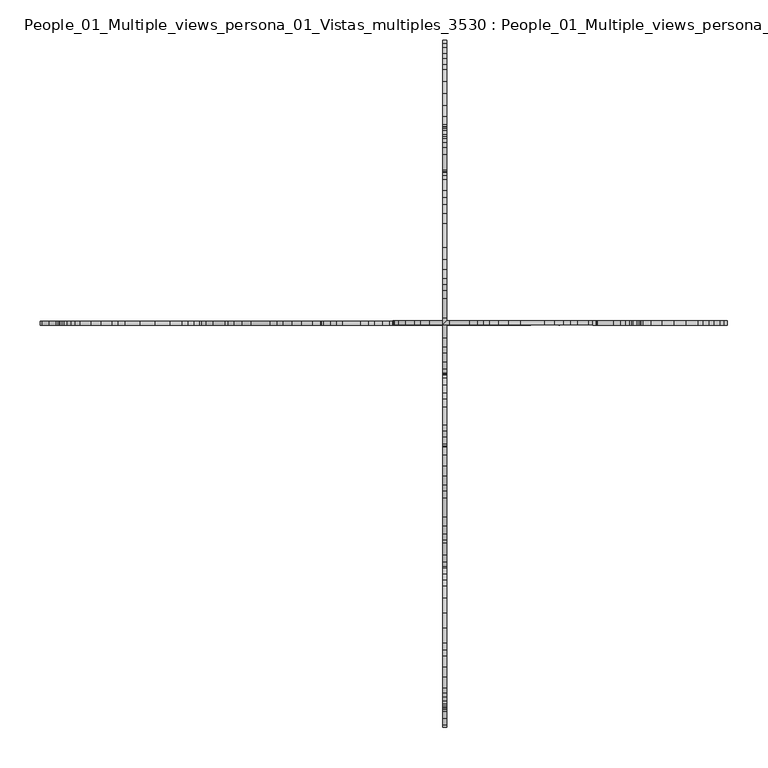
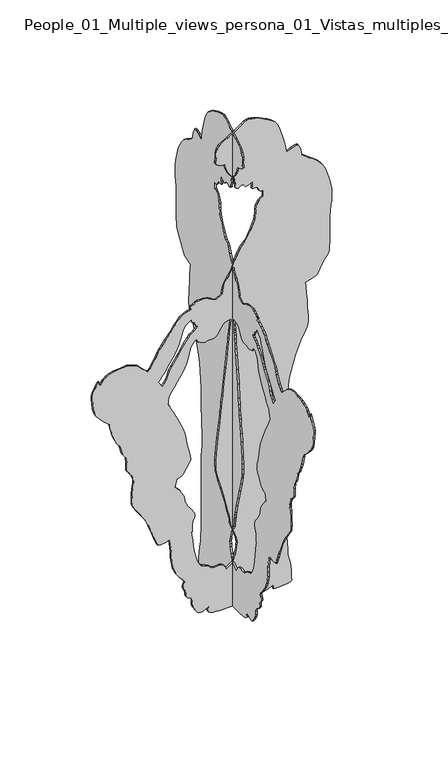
"""IFC4 building model written with IfcOpenShell, lengths in millimetres: proxy geometry, People_01_Multiple_views_persona_01_Vistas_multiples_3530 : People_01_Multiple_views_persona_01_Vistas_multiples_3530."""

from ifc_helpers import new_model, si_unit, frame, origin, place, context, project, spatial, polyline, outline, extrude, source, transform, mapped, element, save


def people_01_multiple_views_persona_01_vistas_multiples_3530_4a2755cf(model_context):
    return source(origin(), model_context, "Body", "SweptSolid", [
        extrude(outline(polyline([(1368.4281997, 51.9186851), (1357.3027672, 44.5017301), (1349.8858122, 38.3209342), (1342.4688572, 30.9039792), (1333.815743, 24.7231834), (1312.8010371, 13.5977509), (1293.0224904, 4.9446367), (1285.6055354, 2.4723183), (1279.4247396, 0.0), (1262.1185112, -4.9446367), (1250.9930787, -11.1254325), (1238.631487, -19.7785467), (1223.797577, -29.66782), (1205.2551895, -35.8486159), (1186.7128019, -39.5570934), (1182.2226355, -39.211696), (1169.4065736, -60.5717993), (1171.8788919, -67.9887543), (1178.0596877, -76.6418685), (1183.0043244, -86.5311418), (1186.7128019, -93.9480968), (1187.9489611, -103.8373702), (1187.9489611, -126.0882352), (1185.4766428, -133.5051902), (1179.2958469, -140.9221452), (1175.5873694, -149.5752594), (1174.3512102, -152.0475777), (1171.8788919, -153.2837369), (1168.1704144, -153.2837369), (1164.4619369, -147.1029411), (1160.7534594, -163.1730103), (1154.5726635, -176.7707611), (1147.1557085, -189.1323528), (1133.5579577, -200.2577853), (1123.6686843, -207.6747403), (1111.3070926, -216.3278545), (1080.4031134, -239.8148787), (1065.5692034, -250.9403112), (1051.9714525, -260.8295846), (1040.84602, -268.2465396), (1032.1929058, -271.9550171), (1004.9974041, -286.7889271), (992.6358124, -295.4420413), (985.1391052, -301.0645717), (985.4436136, -303.1961306), (990.1634941, -310.2759513), (996.34429, -317.6929063), (1003.761245, -325.1098614), (1018.595155, -339.9437714), (1027.2482692, -358.4861589), (1030.9567467, -377.0285464), (1029.7205875, -395.570934), (1028.4844283, -404.2240482), (1027.2482692, -411.6410032), (1026.01211, -425.238754), (1022.3036325, -437.6003457), (1016.1228367, -451.1980966), (1011.1782, -457.3788924), (1007.4697225, -462.3235291), (1000.0527675, -467.2681658), (995.1081308, -470.9766433), (993.8719716, -473.4489616), (996.34429, -475.9212799), (1000.0527675, -477.1574391), (1007.4697225, -477.1574391), (1006.2335633, -478.3935983), (1002.5250858, -480.8659166), (987.6911758, -489.5190308), (970.3849474, -498.172145), (960.4956741, -500.6444633), (950.6064007, -500.6444633), (930.827854, -499.4083041), (911.0493073, -496.9359858), (892.5069198, -491.9913491), (885.0899648, -489.5190308), (880.1453281, -485.8105533), (869.0198956, -475.9212799), (855.4221447, -463.5596883), (841.8243939, -449.9619374), (833.3620962, -438.9609504), (824.5181655, -437.6003457), (789.9057088, -428.9472315), (773.8356396, -422.7664357), (760.2378887, -416.5856398), (750.3486154, -411.6410032), (745.4039787, -407.9325257), (741.6955012, -404.2240482), (735.5147054, -401.7517298), (708.3192037, -394.3347748), (702.1384078, -390.6262973), (697.1937711, -386.9178198), (692.2491345, -383.2093423), (684.8321794, -380.737024), (667.5259511, -378.2647056), (639.0942902, -378.2647056), (632.9134944, -374.5562281), (626.7326985, -369.6115914), (620.5519027, -365.9031139), (618.0795843, -363.4307956), (620.171546, -361.3388339), (610.6626293, -358.4861589), (595.8287193, -354.7776814), (590.8840826, -353.5415222), (587.1756051, -353.5415222), (582.2309684, -354.7776814), (572.3416951, -356.0138406), (545.1461934, -358.4861589), (516.7145325, -359.7223181), (504.3529408, -358.4861589), (495.6998266, -356.0138406), (488.2828716, -352.3053631), (479.6297574, -346.1245672), (459.8512107, -332.5268164), (441.3088232, -320.1652247), (432.655709, -313.9844288), (426.4749132, -310.2759513), (417.821799, -306.5674738), (404.2240482, -300.386678), (368.3754323, -286.7889271), (351.0692039, -280.6081313), (336.2352939, -274.4273354), (325.1098614, -270.7188579), (321.4013839, -268.8646192), (321.4013839, -265.7742213), (320.1652247, -258.3572663), (320.1652247, -249.7041521), (321.4013839, -242.2871971), (323.8737022, -234.870242), (325.2803661, -227.8369226), (310.2759513, -223.7448095), (276.8996538, -220.036332), (259.5934254, -220.036332), (242.2871971, -218.8001729), (227.453287, -216.3278545), (213.8555362, -213.8555362), (190.368512, -202.7301037), (170.5899653, -189.1323528), (163.1730103, -181.7153978), (155.7560553, -176.7707611), (152.0475777, -173.0622836), (150.8114186, -171.8261244), (148.3391002, -173.0622836), (140.9221452, -176.7707611), (133.5051902, -178.0069203), (127.3243944, -178.0069203), (121.1435985, -174.2984428), (113.7266435, -170.5899653), (106.3096885, -169.3538061), (101.3650518, -169.3538061), (97.6565743, -169.3538061), (92.7119377, -166.8814878), (87.767301, -161.9368511), (84.0588235, -153.2837369), (81.5865051, -149.5752594), (77.8780276, -147.1029411), (66.7525951, -145.8667819), (54.3910034, -145.8667819), (43.2655709, -142.1583044), (23.4870242, -129.7967127), (17.3062284, -123.6159169), (16.0700692, -116.1989619), (17.3062284, -110.018166), (26.7459893, -87.9920572), (22.250865, -90.2396193), (13.5977509, -91.4757785), (9.8892733, -89.0034601), (4.9446367, -82.8226643), (1.2361592, -70.4610726), (1.2361592, -61.8079584), (0.0, -51.9186851), (0.0, 0.0), (3.7084775, 53.1548443), (8.6531142, 77.8780276), (13.5977509, 101.3650518), (21.0147059, 123.6159169), (29.66782, 142.1583044), (25.9593425, 140.9221452), (19.7785467, 140.9221452), (16.0700692, 142.1583044), (13.5977509, 142.1583044), (13.5977509, 150.8114186), (14.83391, 171.8261244), (17.3062284, 192.8408303), (19.7785467, 201.4939445), (23.4870242, 207.6747403), (39.5570934, 206.4385812), (58.0994809, 206.4385812), (79.1141868, 203.9662628), (98.8927335, 200.2577853), (111.2543252, 196.5493078), (127.3243944, 194.0769895), (147.1029411, 192.8408303), (169.3538061, 191.6046711), (194.0769895, 190.368512), (332.5268164, 190.368512), (385.6816606, 191.6046711), (410.404844, 191.6046711), (431.4195499, 190.368512), (451.1980966, 189.1323528), (466.0320066, 187.8961936), (493.2275083, 185.4238753), (521.6591692, 184.1877161), (579.7586501, 186.6600345), (640.3304494, 189.1323528), (702.1384078, 191.6046711), (731.8062279, 192.8408303), (761.4740479, 195.3131487), (788.6695496, 199.0216262), (814.6288922, 205.202422), (864.0752589, 220.036332), (912.2854665, 239.8148787), (922.1747398, 244.7595154), (930.827854, 249.7041521), (945.661764, 257.1211071), (958.0233557, 262.0657438), (974.0934249, 265.7742213), (996.34429, 265.7742213), (1012.4143591, 264.5380621), (1030.9567467, 263.3019029), (1054.4437709, 262.0657438), (1081.6392726, 259.5934254), (1113.779411, 257.1211071), (1123.7588209, 256.1553577), (1126.1410027, 263.3019029), (1129.8494802, 273.1911763), (1136.030276, 291.7335638), (1138.5025943, 295.4420413), (1143.447231, 299.1505188), (1157.0449819, 306.5674738), (1174.3512102, 315.220588), (1192.8935978, 328.8183389), (1202.7828711, 334.9991347), (1215.1444628, 339.9437714), (1229.9783728, 341.1799306), (1246.048442, 342.4160897), (1338.7603797, 342.4160897), (1363.483563, 343.6522489), (1384.4982689, 346.1245672), (1400.5683381, 348.5968856), (1414.166089, 349.8330447), (1443.833909, 349.8330447), (1461.1401374, 346.1245672), (1483.3910024, 341.1799306), (1505.6418674, 333.7629755), (1524.184255, 327.5821797), (1537.7820058, 320.1652247), (1548.9074383, 313.9844288), (1566.2136667, 299.1505188), (1577.3390992, 284.3166088), (1587.2283726, 269.4826988), (1597.1176459, 255.8849479), (1604.5346009, 245.9956746), (1607.0069193, 243.5233562), (1609.4792376, 242.2871971), (1611.951556, 242.2871971), (1616.8961926, 241.0510379), (1629.2577843, 238.5787196), (1642.8555352, 233.6340829), (1647.8001718, 231.1617645), (1650.2724902, 228.6894462), (1650.2724902, 223.7448095), (1649.036331, 217.5640137), (1646.5640127, 208.9108995), (1636.6747393, 189.1323528), (1637.9108985, 189.1323528), (1641.619376, 187.8961936), (1652.7448085, 186.6600345), (1670.0510369, 182.951557), (1691.0657427, 178.0069203), (1733.0951545, 164.4091694), (1751.637542, 155.7560553), (1763.9991337, 147.1029411), (1772.6522479, 135.9775086), (1781.3053621, 123.6159169), (1796.1392721, 93.9480968), (1801.0839088, 79.1141868), (1804.7923863, 66.7525951), (1806.0285454, 55.6271626), (1806.0285454, 48.2102076), (1802.3200679, 40.7932526), (1796.1392721, 30.9039792), (1778.8330437, 6.1807958), (1762.7629745, -18.5423875), (1756.5821787, -29.66782), (1752.8737012, -37.0847751), (1745.4567462, -48.2102076), (1733.0951545, -56.8633218), (1720.7335628, -61.8079584), (1709.6081303, -61.8079584), (1697.2465386, -60.5717993), (1688.5934244, -63.0441176), (1682.4126286, -64.2802768), (1676.2318327, -60.5717993), (1671.287196, -53.1548443), (1667.5787185, -44.5017301), (1666.3425594, -37.0847751), (1666.3425594, -30.9039792), (1649.036331, -27.1955017), (1635.4385802, -22.250865), (1624.3131476, -14.83391), (1616.8961926, -9.8892733), (1613.1877151, -4.9446367), (1610.7153968, -1.2361592), (1609.4792376, 1.2361592), (1605.7707601, 3.7084775), (1595.8814868, 4.9446367), (1582.2837359, 6.1807958), (1569.9221442, 7.416955), (1564.9775075, 8.6531142), (1562.5051892, 11.1254325), (1561.26903, 17.3062284), (1563.7413484, 22.250865), (1567.4498259, 27.1955017), (1568.685985, 30.9039792), (1567.4498259, 34.6124567), (1564.9775075, 38.3209342), (1557.5605525, 44.5017301), (1558.7967117, 48.2102076), (1561.26903, 54.3910034), (1564.9775075, 60.5717993), (1566.5227065, 66.7525951), (1552.6159159, 66.7525951), (1543.9628017, 65.5164359), (1541.4904833, 66.7525951), (1540.2543242, 67.9887543), (1540.2543242, 84.0588235), (1539.018165, 86.5311418), (1534.0735283, 87.767301), (1527.8927325, 90.2396193), (1522.9480958, 95.184256), (1521.7119366, 100.1288927), (1521.7119366, 106.3096885), (1500.6972308, 106.3096885), (1500.6972308, 105.0735293), (1498.2249124, 101.3650518), (1494.5164349, 96.4204152), (1488.3356391, 90.2396193), (1471.0294107, 81.5865051), (1459.9039782, 79.1141868), (1445.0700682, 79.1141868), (1435.1807948, 77.8780276), (1422.8192031, 75.4057093), (1395.6237014, 65.5164359), (1368.4281997, 51.9186851)]), holes=[polyline([(776.3079579, -199.0216262), (799.7949821, -211.3832178), (818.3373697, -221.2724912), (826.9904838, -224.9809687), (831.9351205, -228.6894462), (835.643598, -229.9256054), (837.188797, -231.4708043), (841.8243939, -229.9256054), (852.9498264, -228.6894462), (865.3114181, -226.2171279), (867.4746966, -226.2171279), (870.2560547, -223.7448095), (885.0899648, -213.8555362), (893.743079, -207.6747403), (902.3961931, -202.7301037), (919.7024215, -190.368512), (939.4809682, -178.0069203), (964.2041516, -165.6453286), (979.0380616, -160.7006919), (1011.1782, -153.2837369), (1022.3036325, -149.5752594), (1030.9567467, -144.6306227), (1037.1375425, -140.9221452), (1041.5877155, -134.9885812), (1043.3183384, -129.7967127), (1040.84602, -129.7967127), (1037.1375425, -127.3243944), (1032.1929058, -124.852076), (1030.9567467, -118.6712802), (1026.01211, -110.018166), (1024.7759508, -100.1288927), (1026.01211, -91.4757785), (1027.2482692, -86.5311418), (1027.2482692, -70.4610726), (1029.7205875, -61.8079584), (1032.1929058, -58.0994809), (1035.9013833, -55.6271626), (1056.9160892, -43.2655709), (1066.8053626, -35.8486159), (1071.7499992, -29.66782), (1076.6946359, -16.0700692), (1077.9307951, -11.1254325), (1077.9307951, -8.6531142), (1058.1522484, -11.1254325), (1044.5544975, -12.3615917), (1039.6098609, -13.5977509), (1032.1929058, -13.5977509), (1023.5397917, -14.83391), (1009.9420408, -16.0700692), (993.8719716, -17.3062284), (974.0934249, -19.7785467), (951.8425599, -22.250865), (902.3961931, -27.1955017), (850.477508, -33.3762976), (801.0311413, -38.3209342), (778.7802763, -40.7932526), (759.0017296, -42.0294117), (741.6955012, -44.5017301), (728.0977503, -45.7378892), (703.374567, -48.2102076), (676.1790653, -51.9186851), (647.7474044, -55.6271626), (593.356401, -60.5717993), (568.6332176, -63.0441176), (547.6185117, -63.0441176), (531.5484425, -61.8079584), (522.8953283, -60.5717993), (513.006055, -58.0994809), (487.0467125, -51.9186851), (456.1427332, -43.2655709), (422.7664357, -34.6124567), (390.6262973, -25.9593425), (360.9584773, -19.7785467), (349.8330447, -16.0700692), (338.7076122, -14.83391), (331.2906572, -12.3615917), (325.1098614, -12.3615917), (315.220588, -11.1254325), (304.0951555, -8.6531142), (278.135813, 1.2361592), (252.1764704, 9.8892733), (242.2871971, 12.3615917), (233.6340829, 13.5977509), (224.9809687, 12.3615917), (213.8555362, 11.1254325), (191.6046711, 6.1807958), (180.4792386, 2.4723183), (171.8261244, 0.0), (166.8814878, -1.2361592), (164.4091694, -2.4723183), (149.160997, -25.8764901), (155.7560553, -27.1955017), (163.1730103, -33.3762976), (169.3538061, -40.7932526), (170.5899653, -49.4463667), (168.1176469, -67.9887543), (169.3538061, -75.4057093), (173.0622836, -80.350346), (179.2430795, -86.5311418), (185.4238753, -98.8927335), (189.1323528, -108.7820068), (190.368512, -112.4904843), (190.368512, -114.3447231), (194.0769895, -116.1989619), (199.0216262, -119.9074394), (206.4385812, -123.6159169), (217.5640137, -128.5605535), (231.1617645, -132.269031), (249.7041521, -135.9775086), (273.1911763, -139.6859861), (296.6782005, -142.1583044), (316.4567472, -145.8667819), (327.0764782, -147.3838863), (327.9942328, -144.6306227), (357.2499997, -144.6306227), (367.1392731, -142.1583044), (381.9731831, -134.7413494), (391.8624565, -134.7413494), (401.7517298, -139.6859861), (414.1133215, -148.3391002), (430.1833907, -159.4645328), (447.4896191, -168.1176469), (454.9065741, -170.5899653), (469.7404841, -173.0622836), (478.3935983, -176.7707611), (496.9359858, -187.8961936), (510.5337367, -200.2577853), (515.4783733, -203.9662628), (516.7145325, -206.4385812), (544.7442521, -198.9306206), (545.1461934, -195.3131487), (551.3269892, -181.7153978), (556.2716259, -175.534602), (562.4524217, -171.8261244), (574.8140134, -165.6453286), (583.4671276, -159.4645328), (592.1202418, -154.5198961), (603.2456743, -149.5752594), (623.024221, -152.0475777), (644.0389269, -158.2283736), (666.2897919, -163.1730103), (691.0129753, -166.8814878), (698.4299303, -168.1176469), (707.0830445, -170.5899653), (728.0977503, -178.0069203), (776.3079579, -199.0216262)]), polyline([(1022.3036325, -187.8961936), (1012.4143591, -192.8408303), (1004.9974041, -197.785467), (975.3295841, -217.5640137), (960.4956741, -227.453287), (945.661764, -232.3979237), (932.0640132, -237.3425604), (920.9385807, -244.7595154), (913.2125859, -252.4855102), (931.5618235, -265.0402518), (937.0086499, -259.5934254), (945.661764, -253.4126296), (959.2595149, -242.2871971), (974.0934249, -234.870242), (987.6911758, -224.9809687), (1004.9974041, -212.619377), (1026.01211, -200.2577853), (1050.7352934, -190.368512), (1079.1669543, -180.4792386), (1092.7647051, -176.7707611), (1103.8901376, -171.8261244), (1111.3070926, -166.8814878), (1116.2517293, -160.7006919), (1119.9602068, -156.9922144), (1122.4325252, -153.2837369), (1124.2867639, -149.5752594), (1121.196366, -149.5752594), (1116.2517293, -147.1029411), (1112.5432518, -143.3944636), (1110.0709335, -138.4498269), (1103.8901376, -137.2136677), (1097.7093418, -133.5051902), (1095.2370234, -129.7967127), (1094.0008643, -127.3243944), (1091.5285459, -128.5605535), (1086.5839093, -133.5051902), (1079.1669543, -140.9221452), (1072.9861584, -149.5752594), (1069.2776809, -154.5198961), (1061.8607259, -160.7006919), (1043.3183384, -174.2984428), (1022.3036325, -187.8961936)])]), frame((0.0, -2.5, 0.0), z_axis=(0.0, 1.0, 0.0), x_axis=(0.0, 0.0, 1.0)), (0.0, 0.0, 1.0), 5.0),
        extrude(outline(polyline([(13.5977509, 1312.8010371), (24.7231834, 1333.815743), (30.9039792, 1342.4688572), (38.3209342, 1349.8858122), (44.5017301, 1357.3027672), (51.9186851, 1368.4281997), (65.5164359, 1395.6237014), (75.4057093, 1422.8192031), (77.8780276, 1435.1807948), (79.1141868, 1445.0700682), (79.1141868, 1459.9039782), (81.5865051, 1471.0294107), (90.2396193, 1488.3356391), (96.4204152, 1494.5164349), (101.3650518, 1498.2249124), (105.0735293, 1500.6972308), (106.3096885, 1500.6972308), (106.3096885, 1521.7119366), (100.1288927, 1521.7119366), (95.184256, 1522.9480958), (90.2396193, 1527.8927325), (87.767301, 1534.0735283), (86.5311418, 1539.018165), (84.0588235, 1540.2543242), (67.9887543, 1540.2543242), (66.7525951, 1541.4904833), (65.5164359, 1543.9628017), (66.7525951, 1552.6159159), (66.7525951, 1566.5227065), (60.5717993, 1564.9775075), (54.3910034, 1561.26903), (48.2102076, 1558.7967117), (44.5017301, 1557.5605525), (38.3209342, 1564.9775075), (34.6124567, 1567.4498259), (30.9039792, 1568.685985), (27.1955017, 1567.4498259), (22.250865, 1563.7413484), (17.3062284, 1561.26903), (11.1254325, 1562.5051892), (8.6531142, 1564.9775075), (7.416955, 1569.9221442), (6.1807958, 1582.2837359), (4.9446367, 1595.8814868), (3.7084775, 1605.7707601), (1.2361592, 1609.4792376), (-1.2361592, 1610.7153968), (-4.9446367, 1613.1877151), (-9.8892733, 1616.8961926), (-14.83391, 1624.3131476), (-22.250865, 1635.4385802), (-27.1955017, 1649.036331), (-30.9039792, 1666.3425594), (-37.0847751, 1666.3425594), (-44.5017301, 1667.5787185), (-53.1548443, 1671.287196), (-60.5717993, 1676.2318327), (-64.2802768, 1682.4126286), (-63.0441176, 1688.5934244), (-60.5717993, 1697.2465386), (-61.8079584, 1709.6081303), (-61.8079584, 1720.7335628), (-56.8633218, 1733.0951545), (-48.2102076, 1745.4567462), (-37.0847751, 1752.8737012), (-29.66782, 1756.5821787), (-18.5423875, 1762.7629745), (6.1807958, 1778.8330437), (30.9039792, 1796.1392721), (40.7932526, 1802.3200679), (48.2102076, 1806.0285454), (55.6271626, 1806.0285454), (66.7525951, 1804.7923863), (79.1141868, 1801.0839088), (93.9480968, 1796.1392721), (123.6159169, 1781.3053621), (135.9775086, 1772.6522479), (147.1029411, 1763.9991337), (155.7560553, 1751.637542), (164.4091694, 1733.0951545), (178.0069203, 1691.0657427), (182.951557, 1670.0510369), (186.6600345, 1652.7448085), (187.8961936, 1641.619376), (189.1323528, 1637.9108985), (189.1323528, 1636.6747393), (208.9108995, 1646.5640127), (217.5640137, 1649.036331), (223.7448095, 1650.2724902), (228.6894462, 1650.2724902), (231.1617645, 1647.8001718), (233.6340829, 1642.8555352), (238.5787196, 1629.2577843), (241.0510379, 1616.8961926), (242.2871971, 1611.951556), (242.2871971, 1609.4792376), (243.5233562, 1607.0069193), (245.9956746, 1604.5346009), (255.8849479, 1597.1176459), (269.4826988, 1587.2283726), (284.3166088, 1577.3390992), (299.1505188, 1566.2136667), (313.9844288, 1548.9074383), (320.1652247, 1537.7820058), (327.5821797, 1524.184255), (333.7629755, 1505.6418674), (341.1799306, 1483.3910024), (346.1245672, 1461.1401374), (349.8330447, 1443.833909), (349.8330447, 1414.166089), (348.5968856, 1400.5683381), (346.1245672, 1384.4982689), (343.6522489, 1363.483563), (342.4160897, 1338.7603797), (342.4160897, 1246.048442), (341.1799306, 1229.9783728), (339.9437714, 1215.1444628), (334.9991347, 1202.7828711), (328.8183389, 1192.8935978), (315.220588, 1174.3512102), (306.5674738, 1157.0449819), (299.1505188, 1143.447231), (295.4420413, 1138.5025943), (291.7335638, 1136.030276), (273.1911763, 1129.8494802), (263.3019029, 1126.1410027), (256.1553577, 1123.7588209), (257.1211071, 1113.779411), (259.5934254, 1081.6392726), (262.0657438, 1054.4437709), (263.3019029, 1030.9567467), (264.5380621, 1012.4143591), (265.7742213, 996.34429), (265.7742213, 974.0934249), (262.0657438, 958.0233557), (257.1211071, 945.661764), (249.7041521, 930.827854), (244.7595154, 922.1747398), (239.8148787, 912.2854665), (220.036332, 864.0752589), (205.202422, 814.6288922), (199.0216262, 788.6695496), (195.3131487, 761.4740479), (192.8408303, 731.8062279), (191.6046711, 702.1384078), (189.1323528, 640.3304494), (186.6600345, 579.7586501), (184.1877161, 521.6591692), (185.4238753, 493.2275083), (187.8961936, 466.0320066), (189.1323528, 451.1980966), (190.368512, 431.4195499), (191.6046711, 410.404844), (191.6046711, 385.6816606), (190.368512, 332.5268164), (190.368512, 194.0769895), (191.6046711, 169.3538061), (192.8408303, 147.1029411), (194.0769895, 127.3243944), (196.5493078, 111.2543252), (200.2577853, 98.8927335), (203.9662628, 79.1141868), (206.4385812, 58.0994809), (206.4385812, 39.5570934), (207.6747403, 23.4870242), (201.4939445, 19.7785467), (192.8408303, 17.3062284), (171.8261244, 14.83391), (150.8114186, 13.5977509), (142.1583044, 13.5977509), (142.1583044, 16.0700692), (140.9221452, 19.7785467), (140.9221452, 25.9593425), (142.1583044, 29.66782), (123.6159169, 21.0147059), (101.3650518, 13.5977509), (77.8780276, 8.6531142), (53.1548443, 3.7084775), (0.0, 0.0), (-51.9186851, 0.0), (-61.8079584, 1.2361592), (-70.4610726, 1.2361592), (-82.8226643, 4.9446367), (-89.0034601, 9.8892733), (-91.4757785, 13.5977509), (-90.2396193, 22.250865), (-87.9920572, 26.7459893), (-110.018166, 17.3062284), (-116.1989619, 16.0700692), (-123.6159169, 17.3062284), (-129.7967127, 23.4870242), (-142.1583044, 43.2655709), (-145.8667819, 54.3910034), (-145.8667819, 66.7525951), (-147.1029411, 77.8780276), (-149.5752594, 81.5865051), (-153.2837369, 84.0588235), (-161.9368511, 87.767301), (-166.8814878, 92.7119377), (-169.3538061, 97.6565743), (-169.3538061, 101.3650518), (-169.3538061, 106.3096885), (-170.5899653, 113.7266435), (-174.2984428, 121.1435985), (-178.0069203, 127.3243944), (-178.0069203, 133.5051902), (-176.7707611, 140.9221452), (-173.0622836, 148.3391002), (-171.8261244, 150.8114186), (-173.0622836, 152.0475777), (-176.7707611, 155.7560553), (-181.7153978, 163.1730103), (-189.1323528, 170.5899653), (-202.7301037, 190.368512), (-213.8555362, 213.8555362), (-216.3278545, 227.453287), (-218.8001729, 242.2871971), (-220.036332, 259.5934254), (-220.036332, 276.8996538), (-223.7448095, 310.2759513), (-227.8369226, 325.2803661), (-234.870242, 323.8737022), (-242.2871971, 321.4013839), (-249.7041521, 320.1652247), (-258.3572663, 320.1652247), (-265.7742213, 321.4013839), (-268.8646192, 321.4013839), (-270.7188579, 325.1098614), (-274.4273354, 336.2352939), (-280.6081313, 351.0692039), (-286.7889271, 368.3754323), (-300.386678, 404.2240482), (-306.5674738, 417.821799), (-310.2759513, 426.4749132), (-313.9844288, 432.655709), (-320.1652247, 441.3088232), (-332.5268164, 459.8512107), (-346.1245672, 479.6297574), (-352.3053631, 488.2828716), (-356.0138406, 495.6998266), (-358.4861589, 504.3529408), (-359.7223181, 516.7145325), (-358.4861589, 545.1461934), (-356.0138406, 572.3416951), (-354.7776814, 582.2309684), (-353.5415222, 587.1756051), (-353.5415222, 590.8840826), (-354.7776814, 595.8287193), (-358.4861589, 610.6626293), (-361.3388339, 620.171546), (-363.4307956, 618.0795843), (-365.9031139, 620.5519027), (-369.6115914, 626.7326985), (-374.5562281, 632.9134944), (-378.2647056, 639.0942902), (-378.2647056, 667.5259511), (-380.737024, 684.8321794), (-383.2093423, 692.2491345), (-386.9178198, 697.1937711), (-390.6262973, 702.1384078), (-394.3347748, 708.3192037), (-401.7517298, 735.5147054), (-404.2240482, 741.6955012), (-407.9325257, 745.4039787), (-411.6410032, 750.3486154), (-416.5856398, 760.2378887), (-422.7664357, 773.8356396), (-428.9472315, 789.9057088), (-437.6003457, 824.5181655), (-438.9609504, 833.3620962), (-449.9619374, 841.8243939), (-463.5596883, 855.4221447), (-475.9212799, 869.0198956), (-485.8105533, 880.1453281), (-489.5190308, 885.0899648), (-491.9913491, 892.5069198), (-496.9359858, 911.0493073), (-499.4083041, 930.827854), (-500.6444633, 950.6064007), (-500.6444633, 960.4956741), (-498.172145, 970.3849474), (-489.5190308, 987.6911758), (-480.8659166, 1002.5250858), (-478.3935983, 1006.2335633), (-477.1574391, 1007.4697225), (-477.1574391, 1000.0527675), (-475.9212799, 996.34429), (-473.4489616, 993.8719716), (-470.9766433, 995.1081308), (-467.2681658, 1000.0527675), (-462.3235291, 1007.4697225), (-457.3788924, 1011.1782), (-451.1980966, 1016.1228367), (-437.6003457, 1022.3036325), (-425.238754, 1026.01211), (-411.6410032, 1027.2482692), (-404.2240482, 1028.4844283), (-395.570934, 1029.7205875), (-377.0285464, 1030.9567467), (-358.4861589, 1027.2482692), (-339.9437714, 1018.595155), (-325.1098614, 1003.761245), (-317.6929063, 996.34429), (-310.2759513, 990.1634941), (-303.1961306, 985.4436136), (-301.0645717, 985.1391052), (-295.4420413, 992.6358124), (-286.7889271, 1004.9974041), (-271.9550171, 1032.1929058), (-268.2465396, 1040.84602), (-260.8295846, 1051.9714525), (-250.9403112, 1065.5692034), (-239.8148787, 1080.4031134), (-216.3278545, 1111.3070926), (-207.6747403, 1123.6686843), (-200.2577853, 1133.5579577), (-189.1323528, 1147.1557085), (-176.7707611, 1154.5726635), (-163.1730103, 1160.7534594), (-147.1029411, 1164.4619369), (-153.2837369, 1168.1704144), (-153.2837369, 1171.8788919), (-152.0475777, 1174.3512102), (-149.5752594, 1175.5873694), (-140.9221452, 1179.2958469), (-133.5051902, 1185.4766428), (-126.0882352, 1187.9489611), (-103.8373702, 1187.9489611), (-93.9480968, 1186.7128019), (-86.5311418, 1183.0043244), (-76.6418685, 1178.0596877), (-67.9887543, 1171.8788919), (-60.5717993, 1169.4065736), (-39.211696, 1182.2226355), (-39.5570934, 1186.7128019), (-35.8486159, 1205.2551895), (-29.66782, 1223.797577), (-19.7785467, 1238.631487), (-11.1254325, 1250.9930787), (-4.9446367, 1262.1185112), (0.0, 1279.4247396), (2.4723183, 1285.6055354), (4.9446367, 1293.0224904), (13.5977509, 1312.8010371)]), holes=[polyline([(-217.5640137, 975.3295841), (-197.785467, 1004.9974041), (-192.8408303, 1012.4143591), (-187.8961936, 1022.3036325), (-174.2984428, 1043.3183384), (-160.7006919, 1061.8607259), (-154.5198961, 1069.2776809), (-149.5752594, 1072.9861584), (-140.9221452, 1079.1669543), (-133.5051902, 1086.5839093), (-128.5605535, 1091.5285459), (-127.3243944, 1094.0008643), (-129.7967127, 1095.2370234), (-133.5051902, 1097.7093418), (-137.2136677, 1103.8901376), (-138.4498269, 1110.0709335), (-143.3944636, 1112.5432518), (-147.1029411, 1116.2517293), (-149.5752594, 1121.196366), (-149.5752594, 1124.2867639), (-153.2837369, 1122.4325252), (-156.9922144, 1119.9602068), (-160.7006919, 1116.2517293), (-166.8814878, 1111.3070926), (-171.8261244, 1103.8901376), (-176.7707611, 1092.7647051), (-180.4792386, 1079.1669543), (-190.368512, 1050.7352934), (-200.2577853, 1026.01211), (-212.619377, 1004.9974041), (-224.9809687, 987.6911758), (-234.870242, 974.0934249), (-242.2871971, 959.2595149), (-253.4126296, 945.661764), (-259.5934254, 937.0086499), (-265.0402518, 931.5618235), (-252.4855102, 913.2125859), (-244.7595154, 920.9385807), (-237.3425604, 932.0640132), (-232.3979237, 945.661764), (-227.453287, 960.4956741), (-217.5640137, 975.3295841)]), polyline([(-38.3209342, 801.0311413), (-33.3762976, 850.477508), (-27.1955017, 902.3961931), (-22.250865, 951.8425599), (-19.7785467, 974.0934249), (-17.3062284, 993.8719716), (-16.0700692, 1009.9420408), (-14.83391, 1023.5397917), (-13.5977509, 1032.1929058), (-13.5977509, 1039.6098609), (-12.3615917, 1044.5544975), (-11.1254325, 1058.1522484), (-8.6531142, 1077.9307951), (-11.1254325, 1077.9307951), (-16.0700692, 1076.6946359), (-29.66782, 1071.7499992), (-35.8486159, 1066.8053626), (-43.2655709, 1056.9160892), (-55.6271626, 1035.9013833), (-58.0994809, 1032.1929058), (-61.8079584, 1029.7205875), (-70.4610726, 1027.2482692), (-86.5311418, 1027.2482692), (-91.4757785, 1026.01211), (-100.1288927, 1024.7759508), (-110.018166, 1026.01211), (-118.6712802, 1030.9567467), (-124.852076, 1032.1929058), (-127.3243944, 1037.1375425), (-129.7967127, 1040.84602), (-129.7967127, 1043.3183384), (-134.9885812, 1041.5877155), (-140.9221452, 1037.1375425), (-144.6306227, 1030.9567467), (-149.5752594, 1022.3036325), (-153.2837369, 1011.1782), (-160.7006919, 979.0380616), (-165.6453286, 964.2041516), (-178.0069203, 939.4809682), (-190.368512, 919.7024215), (-202.7301037, 902.3961931), (-207.6747403, 893.743079), (-213.8555362, 885.0899648), (-223.7448095, 870.2560547), (-226.2171279, 867.4746966), (-226.2171279, 865.3114181), (-228.6894462, 852.9498264), (-229.9256054, 841.8243939), (-231.4708043, 837.188797), (-229.9256054, 835.643598), (-228.6894462, 831.9351205), (-224.9809687, 826.9904838), (-221.2724912, 818.3373697), (-211.3832178, 799.7949821), (-199.0216262, 776.3079579), (-178.0069203, 728.0977503), (-170.5899653, 707.0830445), (-168.1176469, 698.4299303), (-166.8814878, 691.0129753), (-163.1730103, 666.2897919), (-158.2283736, 644.0389269), (-152.0475777, 623.024221), (-149.5752594, 603.2456743), (-154.5198961, 592.1202418), (-159.4645328, 583.4671276), (-165.6453286, 574.8140134), (-171.8261244, 562.4524217), (-175.534602, 556.2716259), (-181.7153978, 551.3269892), (-195.3131487, 545.1461934), (-198.9306206, 544.7442521), (-206.4385812, 516.7145325), (-203.9662628, 515.4783733), (-200.2577853, 510.5337367), (-187.8961936, 496.9359858), (-176.7707611, 478.3935983), (-173.0622836, 469.7404841), (-170.5899653, 454.9065741), (-168.1176469, 447.4896191), (-159.4645328, 430.1833907), (-148.3391002, 414.1133215), (-139.6859861, 401.7517298), (-134.7413494, 391.8624565), (-134.7413494, 381.9731831), (-142.1583044, 367.1392731), (-144.6306227, 357.2499997), (-144.6306227, 327.9942328), (-147.3838863, 327.0764782), (-145.8667819, 316.4567472), (-142.1583044, 296.6782005), (-139.6859861, 273.1911763), (-135.9775086, 249.7041521), (-132.269031, 231.1617645), (-128.5605535, 217.5640137), (-123.6159169, 206.4385812), (-119.9074394, 199.0216262), (-116.1989619, 194.0769895), (-114.3447231, 190.368512), (-112.4904843, 190.368512), (-108.7820068, 189.1323528), (-98.8927335, 185.4238753), (-86.5311418, 179.2430795), (-80.350346, 173.0622836), (-75.4057093, 169.3538061), (-67.9887543, 168.1176469), (-49.4463667, 170.5899653), (-40.7932526, 169.3538061), (-33.3762976, 163.1730103), (-27.1955017, 155.7560553), (-25.8764901, 149.160997), (-2.4723183, 164.4091694), (-1.2361592, 166.8814878), (0.0, 171.8261244), (2.4723183, 180.4792386), (6.1807958, 191.6046711), (11.1254325, 213.8555362), (12.3615917, 224.9809687), (13.5977509, 233.6340829), (12.3615917, 242.2871971), (9.8892733, 252.1764704), (1.2361592, 278.135813), (-8.6531142, 304.0951555), (-11.1254325, 315.220588), (-12.3615917, 325.1098614), (-12.3615917, 331.2906572), (-14.83391, 338.7076122), (-16.0700692, 349.8330447), (-19.7785467, 360.9584773), (-25.9593425, 390.6262973), (-34.6124567, 422.7664357), (-43.2655709, 456.1427332), (-51.9186851, 487.0467125), (-58.0994809, 513.006055), (-60.5717993, 522.8953283), (-61.8079584, 531.5484425), (-63.0441176, 547.6185117), (-63.0441176, 568.6332176), (-60.5717993, 593.356401), (-55.6271626, 647.7474044), (-51.9186851, 676.1790653), (-48.2102076, 703.374567), (-45.7378892, 728.0977503), (-44.5017301, 741.6955012), (-42.0294117, 759.0017296), (-40.7932526, 778.7802763), (-38.3209342, 801.0311413)])]), frame((-2.5, 0.0, 0.0), z_axis=(1.0, 0.0, 0.0), x_axis=(0.0, 1.0, 0.0)), (0.0, 0.0, 1.0), 5.0),
    ])


if __name__ == "__main__":
    model = new_model("IFC4")
    model_context = context("Model", 3, world=origin())
    ifc_project = project(units=[si_unit("LENGTHUNIT", "METRE", prefix="MILLI")], contexts=[model_context])
    site = spatial("IfcSite", under=ifc_project)
    building = spatial("IfcBuilding", under=site)
    placement = place(None, origin())
    people_01_multiple_views_persona_01_vistas_multiples_3530_shape = people_01_multiple_views_persona_01_vistas_multiples_3530_4a2755cf(model_context)
    element("IfcBuildingElementProxy", 1, Name="People_01_Multiple_views_persona_01_Vistas_multiples_3530 : People_01_Multiple_views_persona_01_Vistas_multiples_3530", ObjectType="People_01_Multiple_views_persona_01_Vistas_multiples_3530 : People_01_Multiple_views_persona_01_Vistas_multiples_3530", at=placement, inside=building, context=model_context, shape_type="MappedRepresentation", body=[
        mapped(people_01_multiple_views_persona_01_vistas_multiples_3530_shape, transform((0.0, 0.0, 0.0), x_axis=(1.0, 0.0, 0.0), y_axis=(0.0, 1.0, 0.0), z_axis=(0.0, 0.0, 1.0))),
    ])
    save(model, "model.ifc")
